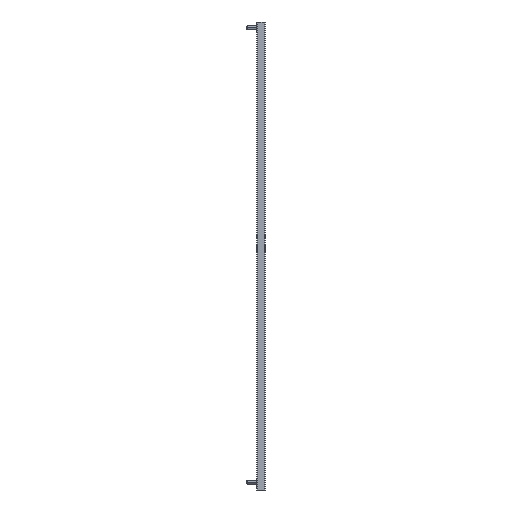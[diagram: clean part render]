
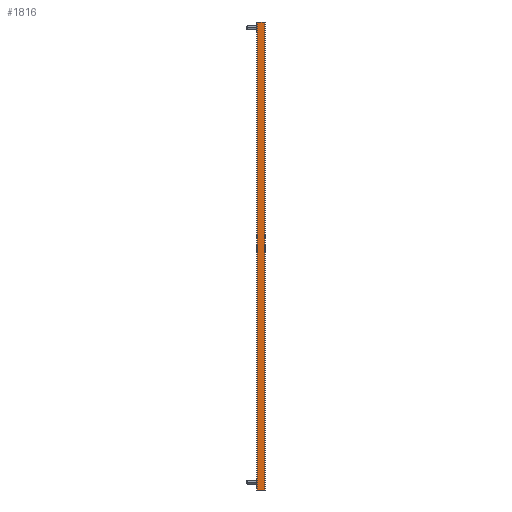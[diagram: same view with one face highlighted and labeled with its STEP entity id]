
A CAD part, left-side view. The second image highlights one B-rep face of the part: STEP entity #1816.
In plain terms, the highlighted planar face has unit normal (-1, 0, 0).
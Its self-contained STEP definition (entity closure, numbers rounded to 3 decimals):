
#8 = ORIENTED_EDGE ( 'NONE', *, *, #974, .T. ) ;
#158 = DIRECTION ( 'NONE',  ( 0., 0., 1. ) ) ;
#237 = LINE ( 'NONE', #4489, #2493 ) ;
#280 = LINE ( 'NONE', #4131, #520 ) ;
#319 = VECTOR ( 'NONE', #516, 1000. ) ;
#334 = DIRECTION ( 'NONE',  ( 0., 0., 1. ) ) ;
#371 = ORIENTED_EDGE ( 'NONE', *, *, #744, .T. ) ;
#399 = LINE ( 'NONE', #1795, #3458 ) ;
#449 = CARTESIAN_POINT ( 'NONE',  ( -8., 12.5, 679. ) ) ;
#516 = DIRECTION ( 'NONE',  ( 0., -1., 0. ) ) ;
#520 = VECTOR ( 'NONE', #1678, 1000. ) ;
#549 = ORIENTED_EDGE ( 'NONE', *, *, #1486, .T. ) ;
#603 = CARTESIAN_POINT ( 'NONE',  ( -8., 12.5, 679. ) ) ;
#652 = CARTESIAN_POINT ( 'NONE',  ( -8., 3.2, 679. ) ) ;
#702 = DIRECTION ( 'NONE',  ( 0., 0., 1. ) ) ;
#744 = EDGE_CURVE ( 'NONE', #3524, #1830, #3630, .T. ) ;
#974 = EDGE_CURVE ( 'NONE', #1830, #4405, #2490, .T. ) ;
#976 = VECTOR ( 'NONE', #1528, 1000. ) ;
#1001 = DIRECTION ( 'NONE',  ( -1., 0., 0. ) ) ;
#1056 = ORIENTED_EDGE ( 'NONE', *, *, #4451, .F. ) ;
#1170 = EDGE_LOOP ( 'NONE', ( #3800, #549, #3729, #371, #8, #4375, #1837, #1056 ) ) ;
#1354 = CARTESIAN_POINT ( 'NONE',  ( -8., 0., 679. ) ) ;
#1486 = EDGE_CURVE ( 'NONE', #3437, #3669, #280, .T. ) ;
#1528 = DIRECTION ( 'NONE',  ( 0., 1., 0. ) ) ;
#1678 = DIRECTION ( 'NONE',  ( 0., -1., 0. ) ) ;
#1730 = VECTOR ( 'NONE', #1935, 1000. ) ;
#1795 = CARTESIAN_POINT ( 'NONE',  ( -8., 0., 679. ) ) ;
#1816 = ADVANCED_FACE ( 'NONE', ( #3409 ), #2028, .T. ) ;
#1830 = VERTEX_POINT ( 'NONE', #2426 ) ;
#1834 = CARTESIAN_POINT ( 'NONE',  ( -8., 0., 0. ) ) ;
#1837 = ORIENTED_EDGE ( 'NONE', *, *, #2448, .T. ) ;
#1878 = CARTESIAN_POINT ( 'NONE',  ( -8., 0., 0. ) ) ;
#1935 = DIRECTION ( 'NONE',  ( 0., -1., 0. ) ) ;
#1959 = CARTESIAN_POINT ( 'NONE',  ( -8., 0., 679. ) ) ;
#2028 = PLANE ( 'NONE',  #2424 ) ;
#2288 = VERTEX_POINT ( 'NONE', #652 ) ;
#2304 = EDGE_CURVE ( 'NONE', #3669, #3524, #3511, .T. ) ;
#2424 = AXIS2_PLACEMENT_3D ( 'NONE', #1354, #1001, #702 ) ;
#2426 = CARTESIAN_POINT ( 'NONE',  ( -8., 0., 0. ) ) ;
#2448 = EDGE_CURVE ( 'NONE', #2288, #3486, #2951, .T. ) ;
#2490 = LINE ( 'NONE', #3293, #3588 ) ;
#2493 = VECTOR ( 'NONE', #334, 1000. ) ;
#2670 = EDGE_CURVE ( 'NONE', #3437, #3883, #237, .T. ) ;
#2863 = CARTESIAN_POINT ( 'NONE',  ( -8., 3.2, 0. ) ) ;
#2951 = LINE ( 'NONE', #3632, #976 ) ;
#3146 = CARTESIAN_POINT ( 'NONE',  ( -8., 12.5, 0. ) ) ;
#3189 = DIRECTION ( 'NONE',  ( 0., 1., 0. ) ) ;
#3293 = CARTESIAN_POINT ( 'NONE',  ( -8., 0., 679. ) ) ;
#3409 = FACE_OUTER_BOUND ( 'NONE', #1170, .T. ) ;
#3437 = VERTEX_POINT ( 'NONE', #3146 ) ;
#3458 = VECTOR ( 'NONE', #3189, 1000. ) ;
#3486 = VERTEX_POINT ( 'NONE', #4457 ) ;
#3511 = LINE ( 'NONE', #1834, #4102 ) ;
#3524 = VERTEX_POINT ( 'NONE', #2863 ) ;
#3588 = VECTOR ( 'NONE', #158, 1000. ) ;
#3630 = LINE ( 'NONE', #1878, #1730 ) ;
#3632 = CARTESIAN_POINT ( 'NONE',  ( -8., 0., 679. ) ) ;
#3669 = VERTEX_POINT ( 'NONE', #4059 ) ;
#3729 = ORIENTED_EDGE ( 'NONE', *, *, #2304, .T. ) ;
#3738 = LINE ( 'NONE', #603, #319 ) ;
#3800 = ORIENTED_EDGE ( 'NONE', *, *, #2670, .F. ) ;
#3883 = VERTEX_POINT ( 'NONE', #449 ) ;
#4059 = CARTESIAN_POINT ( 'NONE',  ( -8., 9.3, 0. ) ) ;
#4102 = VECTOR ( 'NONE', #4182, 1000. ) ;
#4131 = CARTESIAN_POINT ( 'NONE',  ( -8., 0., 0. ) ) ;
#4182 = DIRECTION ( 'NONE',  ( 0., -1., 0. ) ) ;
#4317 = EDGE_CURVE ( 'NONE', #4405, #2288, #399, .T. ) ;
#4375 = ORIENTED_EDGE ( 'NONE', *, *, #4317, .T. ) ;
#4405 = VERTEX_POINT ( 'NONE', #1959 ) ;
#4451 = EDGE_CURVE ( 'NONE', #3883, #3486, #3738, .T. ) ;
#4457 = CARTESIAN_POINT ( 'NONE',  ( -8., 9.3, 679. ) ) ;
#4489 = CARTESIAN_POINT ( 'NONE',  ( -8., 12.5, 679. ) ) ;
